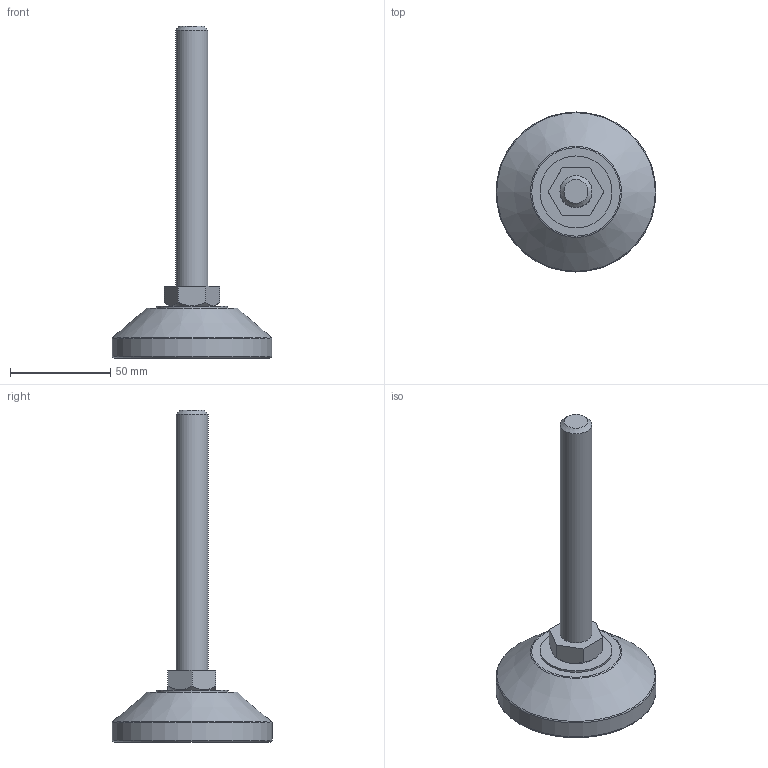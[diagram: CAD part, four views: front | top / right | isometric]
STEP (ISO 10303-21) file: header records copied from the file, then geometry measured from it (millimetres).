
FILE_DESCRIPTION(/* description */ (''),/* implementation_level */ '2;1');
FILE_NAME(/* name */ 'D:\조절자\F\F-M16-130L.stp',/* time_stamp */ '2016-03-14T14:32:34+09:00',/* author */ ('GS-DT-1-001'),/* organization */ (''),/* preprocessor_version */ 'ST-DEVELOPER v15.6',/* originating_system */ 'Autodesk Inventor LT ',/* authorisation */ '');
FILE_SCHEMA (('AUTOMOTIVE_DESIGN { 1 0 10303 214 3 1 1 }'));
Length unit declared in the file: millimetre
Products named in the file (1): F-M16-130L
Bounding box: 80 x 80 x 166 mm (x, y, z)
Volume: 98991.3 mm3; surface area: 24975.8 mm2
Topology: 1 solids, 2 shells, 46 faces, 81 edges, 50 vertices
Faces by surface type: plane 21, cylinder 13, cone 8, torus 4
Full cylindrical faces by diameter (mm): 6.912 x1, 8 x1, 8.2 x1, 8.3 x1, 16 x2, 36 x1, 50 x1, 57 x1, 61 x1, 71 x1, 75 x1, 80 x1
Entity records: 988 total; most frequent: DIRECTION 180, CARTESIAN_POINT 163, ORIENTED_EDGE 110, AXIS2_PLACEMENT_3D 84, EDGE_LOOP 82, EDGE_CURVE 55, VERTEX_POINT 49, FACE_OUTER_BOUND 46
